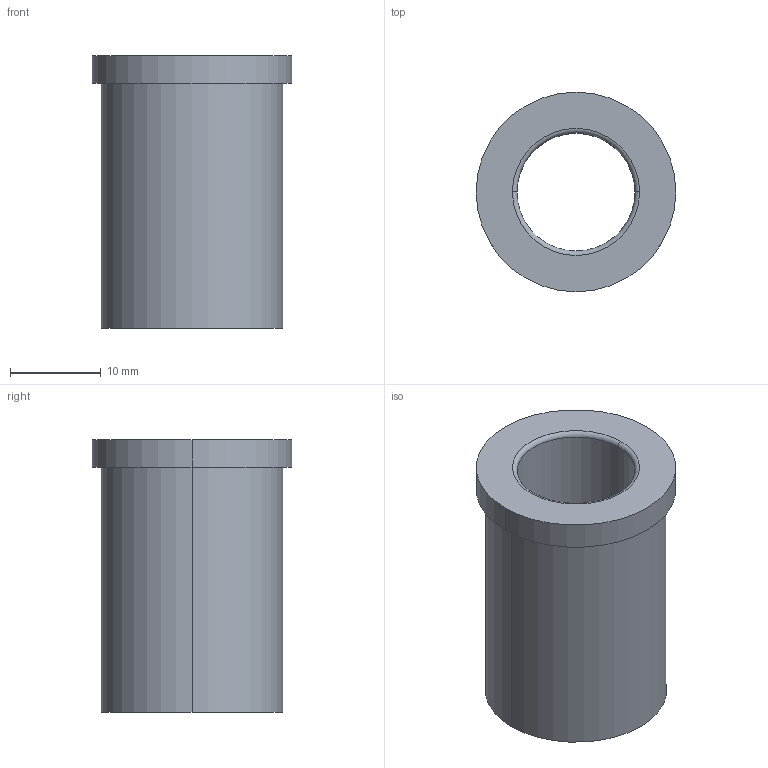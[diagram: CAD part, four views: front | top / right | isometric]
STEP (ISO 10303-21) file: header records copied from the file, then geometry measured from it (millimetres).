
FILE_DESCRIPTION(/* description */ (''),/* implementation_level */ '2;1');
FILE_NAME(/* name */ '3d_sghz13-30_00310_r00.stp',/* time_stamp */ '2011-01-10T14:11:11+09:00',/* author */ ('MISUMI'),/* organization */ (''),/* preprocessor_version */ 'ST-DEVELOPER v11',/* originating_system */ 'UGS - NX 5.0',/* authorisation */ '');
FILE_SCHEMA (('CONFIG_CONTROL_DESIGN'));
Length unit declared in the file: millimetre
Products named in the file (1): 3d_sghz13-30_00310_r00
Bounding box: 22 x 22 x 30 mm (x, y, z)
Volume: 5636.3 mm3; surface area: 3606.5 mm2
Topology: 1 solids, 1 shells, 13 faces, 26 edges, 16 vertices
Faces by surface type: cylinder 6, torus 4, plane 3
Entity records: 438 total; most frequent: DIRECTION 74, CARTESIAN_POINT 56, ORIENTED_EDGE 52, AXIS2_PLACEMENT_3D 34, EDGE_CURVE 26, CIRCLE 20, EDGE_LOOP 16, VERTEX_POINT 16
